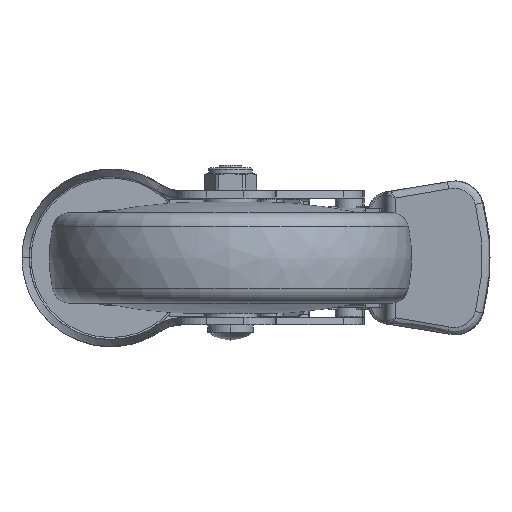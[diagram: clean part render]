
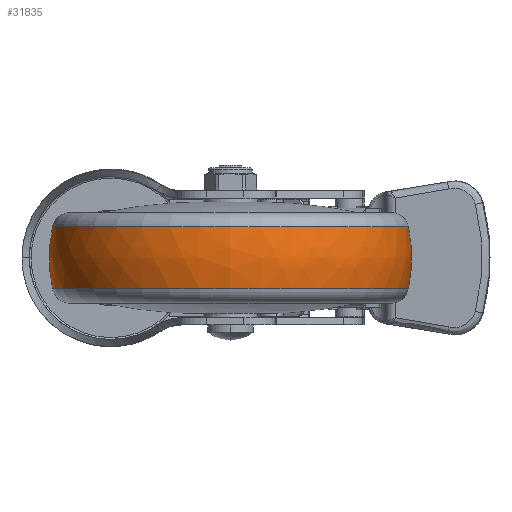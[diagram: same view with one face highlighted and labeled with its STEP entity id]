
A CAD part, front view. The second image highlights one B-rep face of the part: STEP entity #31835.
In plain terms, the highlighted free-form (B-spline) face has degree [3, 3] with [7, 4] control points.
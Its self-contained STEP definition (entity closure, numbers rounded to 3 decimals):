
#30049=CARTESIAN_POINT('',(-59.886,21.377,0.));
#30050=DIRECTION('',(-1.,0.,0.));
#30051=DIRECTION('',(0.,1.,0.));
#30052=AXIS2_PLACEMENT_3D('',#30049,#30050,#30051);
#30054=CARTESIAN_POINT('',(-68.457,31.377,0.));
#30055=DIRECTION('',(0.,0.,1.));
#30056=DIRECTION('',(0.214,0.977,0.));
#30057=AXIS2_PLACEMENT_3D('',#30054,#30055,#30056);
#30064=CARTESIAN_POINT('',(-68.457,11.377,0.));
#30065=DIRECTION('',(0.,0.,-1.));
#30066=DIRECTION('',(0.214,-0.977,0.));
#30067=AXIS2_PLACEMENT_3D('',#30064,#30065,#30066);
#30084=CARTESIAN_POINT('',(-77.029,21.377,0.));
#30085=DIRECTION('',(-1.,0.,0.));
#30086=DIRECTION('',(0.,1.,0.));
#30087=AXIS2_PLACEMENT_3D('',#30084,#30085,#30086);
#31719=CARTESIAN_POINT('',(-59.886,70.448,0.));
#31720=CARTESIAN_POINT('',(-77.029,70.448,0.));
#31721=VERTEX_POINT('',#31719);
#31722=VERTEX_POINT('',#31720);
#31727=CARTESIAN_POINT('',(-59.886,-27.694,
0.));
#31728=CARTESIAN_POINT('',(-77.029,-27.694,
0.));
#31729=VERTEX_POINT('',#31727);
#31730=VERTEX_POINT('',#31728);
#31797=CARTESIAN_POINT('',(-59.548,70.276,
3.076));
#31798=CARTESIAN_POINT('',(-65.437,71.618,
3.161));
#31799=CARTESIAN_POINT('',(-71.477,71.618,
3.161));
#31800=CARTESIAN_POINT('',(-77.366,70.276,
3.076));
#31801=CARTESIAN_POINT('',(-59.548,72.169,
-27.016));
#31802=CARTESIAN_POINT('',(-65.437,73.563,
-27.757));
#31803=CARTESIAN_POINT('',(-71.477,73.563,
-27.757));
#31804=CARTESIAN_POINT('',(-77.366,72.169,
-27.016));
#31805=CARTESIAN_POINT('',(-59.548,51.529,
-48.995));
#31806=CARTESIAN_POINT('',(-65.437,52.356,
-50.341));
#31807=CARTESIAN_POINT('',(-71.477,52.356,
-50.341));
#31808=CARTESIAN_POINT('',(-77.366,51.529,
-48.995));
#31809=CARTESIAN_POINT('',(-59.548,21.377,
-48.995));
#31810=CARTESIAN_POINT('',(-65.437,21.377,
-50.341));
#31811=CARTESIAN_POINT('',(-71.477,21.377,
-50.341));
#31812=CARTESIAN_POINT('',(-77.366,21.377,
-48.995));
#31813=CARTESIAN_POINT('',(-59.548,-8.775,
-48.995));
#31814=CARTESIAN_POINT('',(-65.437,-9.603,
-50.341));
#31815=CARTESIAN_POINT('',(-71.477,-9.603,
-50.341));
#31816=CARTESIAN_POINT('',(-77.366,-8.775,
-48.995));
#31817=CARTESIAN_POINT('',(-59.548,-29.415,
-27.016));
#31818=CARTESIAN_POINT('',(-65.437,-30.81,
-27.757));
#31819=CARTESIAN_POINT('',(-71.477,-30.81,
-27.757));
#31820=CARTESIAN_POINT('',(-77.366,-29.415,
-27.016));
#31821=CARTESIAN_POINT('',(-59.548,-27.522,
3.076));
#31822=CARTESIAN_POINT('',(-65.437,-28.864,
3.161));
#31823=CARTESIAN_POINT('',(-71.477,-28.864,
3.161));
#31824=CARTESIAN_POINT('',(-77.366,-27.522,
3.076));
#31825=(BOUNDED_SURFACE()B_SPLINE_SURFACE(3,3,((#31797,#31798,#31799,#31800),(
#31801,#31802,#31803,#31804),(#31805,#31806,#31807,#31808),(#31809,#31810,
#31811,#31812),(#31813,#31814,#31815,#31816),(#31817,#31818,#31819,#31820),(
#31821,#31822,#31823,#31824)),.UNSPECIFIED.,.F.,.F.,.F.)B_SPLINE_SURFACE_WITH_KNOTS((4,3,4),(4,4),(0.,1.,2.),(0.,1.),.UNSPECIFIED.)GEOMETRIC_REPRESENTATION_ITEM()RATIONAL_B_SPLINE_SURFACE(((1.202,1.182,
1.182,1.202),(0.95,0.934,
0.934,0.95),(0.95,0.934,
0.934,0.95),(1.202,1.182,
1.182,1.202),(0.95,0.934,
0.934,0.95),(0.95,0.934,
0.934,0.95),(1.202,1.182,
1.182,1.202)))REPRESENTATION_ITEM('')SURFACE());
#31827=ORIENTED_EDGE('',*,*,#31826,.T.);
#31829=ORIENTED_EDGE('',*,*,#31828,.T.);
#31831=ORIENTED_EDGE('',*,*,#31830,.F.);
#31832=ORIENTED_EDGE('',*,*,#31790,.F.);
#31833=EDGE_LOOP('',(#31827,#31829,#31831,#31832));
#31834=FACE_OUTER_BOUND('',#31833,.F.);
#30053=CIRCLE('',#30052,49.071);
#30058=CIRCLE('',#30057,40.);
#30068=CIRCLE('',#30067,40.);
#30088=CIRCLE('',#30087,49.071);
#31790=EDGE_CURVE('',#31721,#31729,#30053,.T.);
#31826=EDGE_CURVE('',#31721,#31722,#30058,.T.);
#31828=EDGE_CURVE('',#31722,#31730,#30088,.T.);
#31830=EDGE_CURVE('',#31729,#31730,#30068,.T.);
#31835=ADVANCED_FACE('',(#31834),#31825,.T.);
